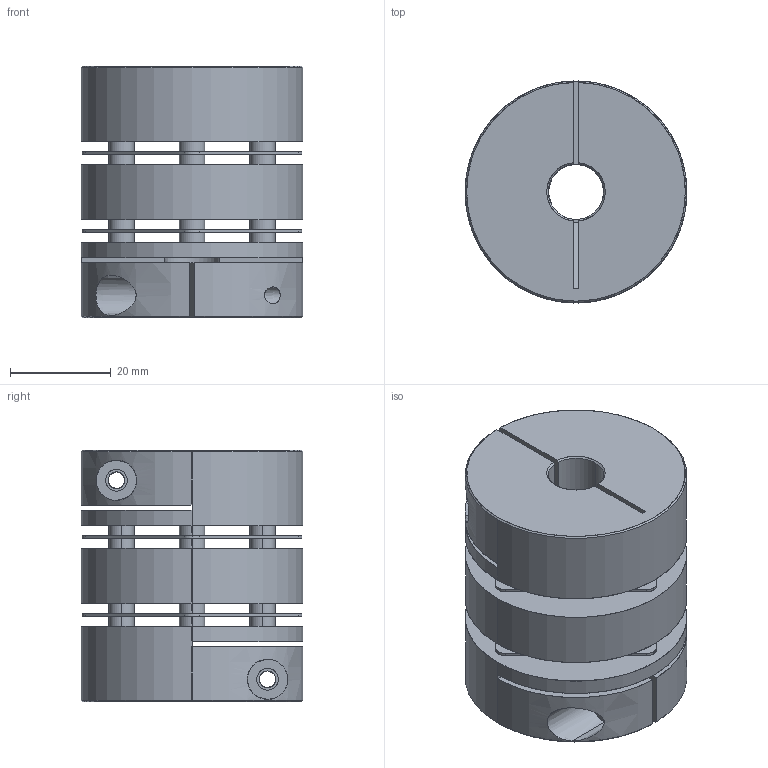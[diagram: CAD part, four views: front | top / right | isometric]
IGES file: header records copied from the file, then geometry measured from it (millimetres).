
Start section: SolidWorks IGES file using analytic representation for surfaces
Bounding box: 44 x 44 x 50 mm (x, y, z)
Surface area: 23760.3 mm2 (no closed solid volume)
Topology: 0 solids, 0 shells, 132 faces, 3062 edges, 3062 vertices
Faces by surface type: revolution 90, bspline 42
